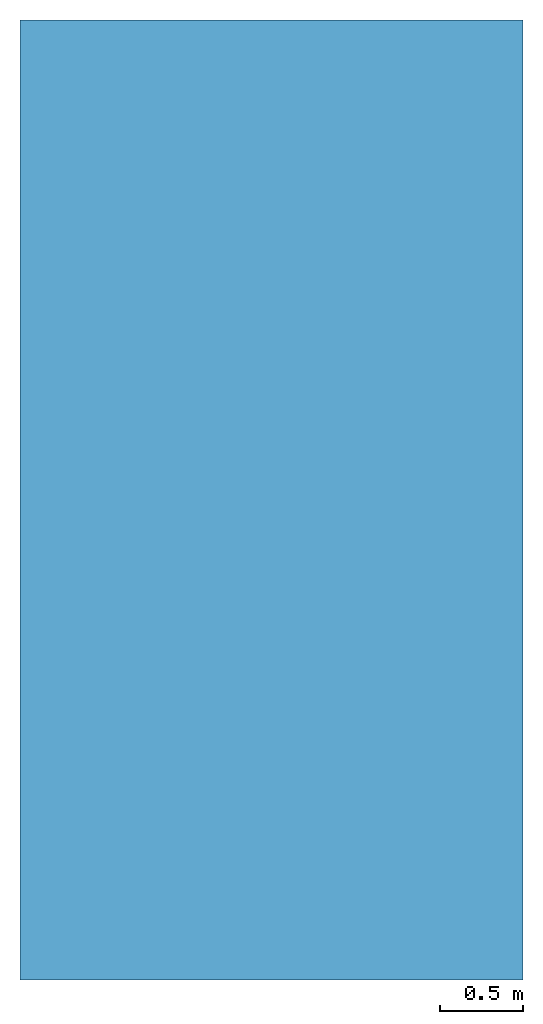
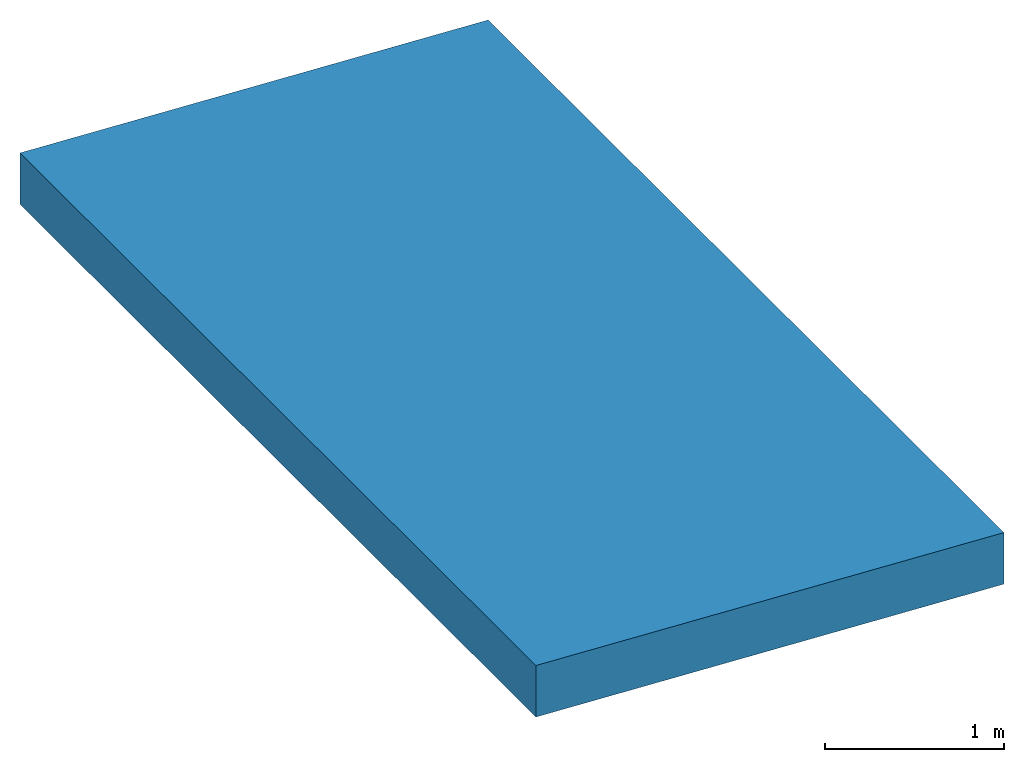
# One storey: 1 ramp flight, 1 element without a shape of its own.
"""IFC2X3 building model written with IfcOpenShell, lengths in millimetres."""

from ifc_helpers import new_model, entity, si_unit, converted_unit, direction, frame, origin, place, context, subcontext, project, spatial, polyline, outline, extrude, material, type_object, element, aggregate, save


model = new_model("IFC2X3")

# Units and contexts
model_context = context("Model", 3, precision=0.01, world=origin(), true_north=direction((0.0, 1.0)))
body_context = subcontext(model_context, "Body", "Model", "MODEL_VIEW")
ifc_project = project(units=[si_unit("LENGTHUNIT", "METRE", prefix="MILLI"), si_unit("AREAUNIT", "SQUARE_METRE"), si_unit("VOLUMEUNIT", "CUBIC_METRE"), converted_unit("PLANEANGLEUNIT", "DEGREE", entity("IfcPlaneAngleMeasure", 0.017453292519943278), si_unit("PLANEANGLEUNIT", "RADIAN"), dimensions=[0, 0, 0, 0, 0, 0, 0])], contexts=[model_context])

# Site, building, storey
site_placement = place(None, origin())
site = spatial("IfcSite", under=ifc_project, at=site_placement, Name="Default", CompositionType="ELEMENT")
building_placement = place(site_placement, origin())
building = spatial("IfcBuilding", under=site, at=building_placement, CompositionType="ELEMENT")
storey_placement = place(building_placement, frame((0.0, 0.0, -3000.0)))
storey = spatial("IfcBuildingStorey", under=building, at=storey_placement, Name="Kjeller", CompositionType="ELEMENT", Elevation=-3000.0)

# Ramp, ramp flight
type_product = type_object("IfcTypeProduct", Name="Ramp:Standard Rampe 2")
ramp_placement = place(storey_placement, origin())
ramp = element("IfcRamp", 1, at=ramp_placement, inside=storey, type_object=type_product, Name="Ramp:Standard Rampe 2", ShapeType="NOTDEFINED")
ifc_material = material(Name="Betong")
ramp_flight_placement = place(ramp_placement, origin())
ramp_flight = element("IfcRampFlight", 2, at=ramp_flight_placement, material=ifc_material, Name="Ramp:Standard Rampe 2:1", context=body_context, shape_type="SweptSolid", body=[
    extrude(outline(polyline([(-100.21696151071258, -1505.703209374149), (250.2169615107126, -1505.703209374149), (100.21696151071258, 1505.7032093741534), (-250.21696151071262, 1505.7032093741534), (-100.21696151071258, -1505.703209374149)])), frame((25206.270629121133, 10088.190261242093, 2699.7830384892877), z_axis=(0.0, 1.0, 0.0), x_axis=(0.0, 0.0, -1.0)), (0.0, 0.0, 1.0), 5750.000000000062),
])
aggregate(ramp, [ramp_flight])

save(model, "model.ifc")
